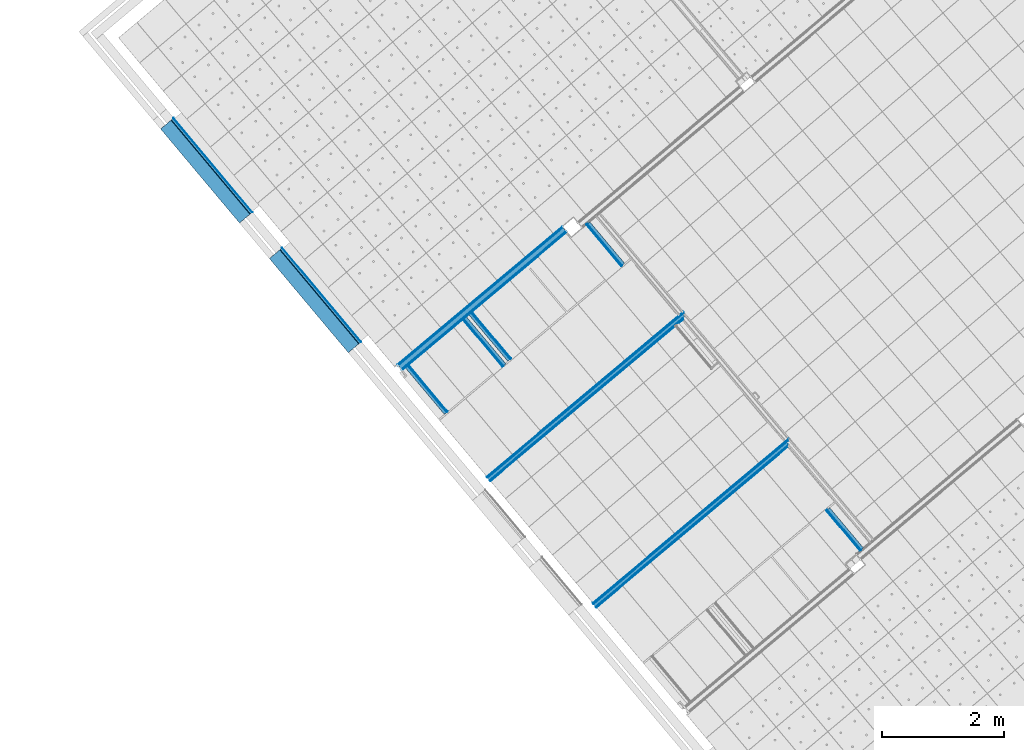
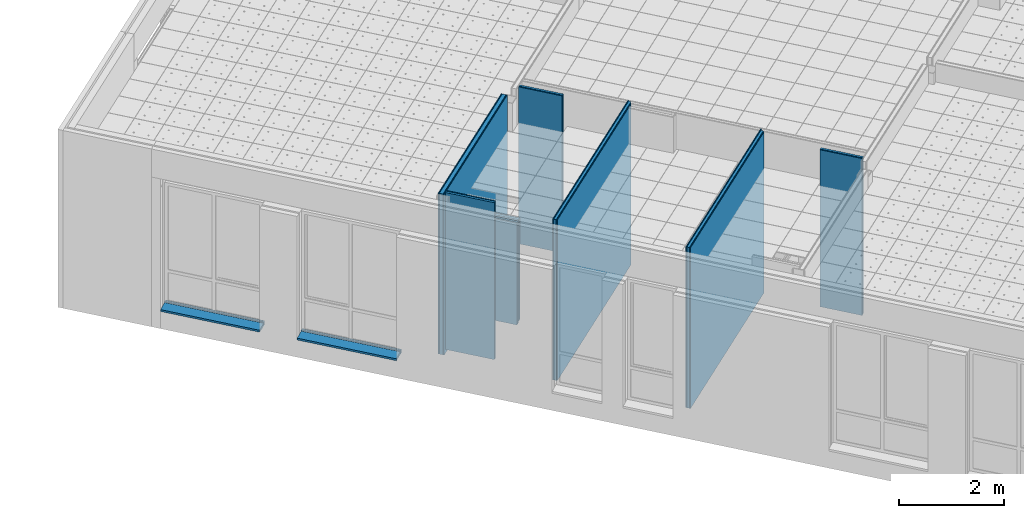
# One storey, part 57 of 338: 36 building element parts, 10 elements without a shape of their own.
"""IFC2X3 building model written with IfcOpenShell, lengths in millimetres."""

from ifc_helpers import new_model, entity, si_unit, converted_unit, derived_unit, money_unit, direction, frame, origin_with_axes, place, context, subcontext, project, spatial, faceted_brep, material, type_object, element, aggregate, save


model = new_model("IFC2X3")

# Units and contexts
model_context = context("Model", 3, precision=0.01, world=origin_with_axes(), true_north=direction((0.0, 1.0)))
plan_context = context("Plan", 3, precision=0.01, world=origin_with_axes(), true_north=direction((0.0, 1.0)))
body_context = subcontext(model_context, "Body", "Model", "MODEL_VIEW")
ifc_project = project(units=[si_unit("LENGTHUNIT", "METRE", prefix="MILLI"), si_unit("AREAUNIT", "SQUARE_METRE"), si_unit("VOLUMEUNIT", "CUBIC_METRE"), converted_unit("PLANEANGLEUNIT", "DEGREE", entity("IfcPlaneAngleMeasure", 0.0174532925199), si_unit("PLANEANGLEUNIT", "RADIAN"), dimensions=[0, 0, 0, 0, 0, 0, 0]), money_unit("EUR"), converted_unit("TIMEUNIT", "Year", entity("IfcTimeMeasure", 31556926.0), si_unit("TIMEUNIT", "SECOND"), dimensions=[0, 0, 1, 0, 0, 0, 0]), si_unit("MASSUNIT", "GRAM", prefix="KILO"), si_unit("THERMODYNAMICTEMPERATUREUNIT", "DEGREE_CELSIUS"), si_unit("LUMINOUSINTENSITYUNIT", "LUMEN"), si_unit("ENERGYUNIT", "JOULE", prefix="MEGA"), derived_unit("THERMALCONDUCTANCEUNIT", [(si_unit("POWERUNIT", "WATT"), 1), (si_unit("LENGTHUNIT", "METRE"), -1), (si_unit("THERMODYNAMICTEMPERATUREUNIT", "KELVIN"), -1)]), derived_unit("SPECIFICHEATCAPACITYUNIT", [(si_unit("ENERGYUNIT", "JOULE"), 1), (si_unit("MASSUNIT", "GRAM", prefix="KILO"), -1), (si_unit("THERMODYNAMICTEMPERATUREUNIT", "KELVIN"), -1)]), derived_unit("MASSDENSITYUNIT", [(si_unit("MASSUNIT", "GRAM", prefix="KILO"), 1), (si_unit("VOLUMEUNIT", "CUBIC_METRE"), -1)])], contexts=[model_context, plan_context])

# Site, building, storey
site_placement = place(None, origin_with_axes())
site = spatial("IfcSite", under=ifc_project, at=site_placement, Name="Fortuinstraat Woensdrecht", CompositionType="ELEMENT")
building_placement = place(site_placement, origin_with_axes())
building = spatial("IfcBuilding", under=site, at=building_placement, Name="IKC Fortuna", CompositionType="ELEMENT")
storey_placement = place(building_placement, origin_with_axes())
storey = spatial("IfcBuildingStorey", under=building, at=storey_placement, Name="00 begane grond", CompositionType="ELEMENT", Elevation=0.0)

# Wall, building element parts
wall_type_1 = type_object("IfcWallType", Name="MS100 2.50.2A 100", PredefinedType="NOTDEFINED")
wall_1_placement = place(storey_placement, frame((8078.40234928, -9394.10644815, 1360.0), z_axis=(0.0, 0.0, 1.0), x_axis=(0.766044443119, 0.642787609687, 0.0)))
wall_1 = element("IfcWall", 1, at=wall_1_placement, inside=storey, type_object=wall_type_1, Name="22_Wand_Binnenwand")
ifc_material_1 = material(Name="Gipsplaat")
building_element_part_1_placement = place(wall_1_placement, origin_with_axes())
building_element_part_1 = element("IfcBuildingElementPart", 2, at=building_element_part_1_placement, material=ifc_material_1, Name="Gipsplaat", context=body_context, shape_type="Brep", body=[
    faceted_brep([(4187.47180896, 100.0, 3740.0), (0.0, 100.0, 3740.0), (0.0, 87.5, 3740.0), (4187.47180896, 87.5, 3740.0), (4187.47180896, 100.0, 0.0), (0.0, 100.0, 0.0), (0.0, 87.5, 0.0), (4187.47180896, 87.5, 0.0)], [[[0, 1, 2, 3]], [[4, 5, 1, 0]], [[2, 1, 5, 6]], [[3, 2, 6, 7]], [[3, 7, 4, 0]], [[7, 6, 5, 4]]]),
])
building_element_part_2_placement = place(wall_1_placement, origin_with_axes())
building_element_part_2 = element("IfcBuildingElementPart", 3, at=building_element_part_2_placement, material=ifc_material_1, Name="Gipsplaat", context=body_context, shape_type="Brep", body=[
    faceted_brep([(4174.97180896, 87.5, 3740.0), (0.0, 87.5, 3740.0), (0.0, 75.0, 3740.0), (4174.97180896, 75.0, 3740.0), (4174.97180896, 87.5, 0.0), (0.0, 87.5, 0.0), (0.0, 75.0, 0.0), (4174.97180896, 75.0, 0.0)], [[[0, 1, 2, 3]], [[4, 5, 1, 0]], [[2, 1, 5, 6]], [[3, 2, 6, 7]], [[3, 7, 4, 0]], [[7, 6, 5, 4]]]),
])
ifc_material_2 = material(Name="Isolatie - Steenwol LSW")
building_element_part_3_placement = place(wall_1_placement, origin_with_axes())
building_element_part_3 = element("IfcBuildingElementPart", 4, at=building_element_part_3_placement, material=ifc_material_2, Name="Isolatie - Steenwol LSW", context=body_context, shape_type="Brep", body=[
    faceted_brep([(4124.97180896, 75.0, 3740.0), (0.0, 75.0, 3740.0), (0.0, 25.0, 3740.0), (4124.97180896, 25.0, 3740.0), (4124.97180896, 75.0, 0.0), (0.0, 75.0, 0.0), (0.0, 25.0, 0.0), (4124.97180896, 25.0, 0.0)], [[[0, 1, 2, 3]], [[4, 5, 1, 0]], [[2, 1, 5, 6]], [[3, 2, 6, 7]], [[3, 7, 4, 0]], [[7, 6, 5, 4]]]),
])
building_element_part_4_placement = place(wall_1_placement, origin_with_axes())
building_element_part_4 = element("IfcBuildingElementPart", 5, at=building_element_part_4_placement, material=ifc_material_1, Name="Gipsplaat", context=body_context, shape_type="Brep", body=[
    faceted_brep([(4112.47180896, 25.0, 3740.0), (0.0, 25.0, 3740.0), (0.0, 12.5, 3740.0), (4112.47180896, 12.5, 3740.0), (4112.47180896, 25.0, 0.0), (0.0, 25.0, 0.0), (0.0, 12.5, 0.0), (4112.47180896, 12.5, 0.0)], [[[0, 1, 2, 3]], [[4, 5, 1, 0]], [[2, 1, 5, 6]], [[3, 2, 6, 7]], [[3, 7, 4, 0]], [[7, 6, 5, 4]]]),
])
building_element_part_5_placement = place(wall_1_placement, origin_with_axes())
building_element_part_5 = element("IfcBuildingElementPart", 6, at=building_element_part_5_placement, material=ifc_material_1, Name="Gipsplaat", context=body_context, shape_type="Brep", body=[
    faceted_brep([(4099.97180896, 12.5, 3740.0), (0.0, 12.5, 3740.0), (0.0, 0.0, 3740.0), (4099.97180896, 0.0, 3740.0), (4099.97180896, 12.5, 0.0), (0.0, 12.5, 0.0), (0.0, 0.0, 0.0), (4099.97180896, 0.0, 0.0)], [[[0, 1, 2, 3]], [[4, 5, 1, 0]], [[2, 1, 5, 6]], [[3, 2, 6, 7]], [[3, 7, 4, 0]], [[7, 6, 5, 4]]]),
])
aggregate(wall_1, [building_element_part_1, building_element_part_2, building_element_part_3, building_element_part_4, building_element_part_5])

wall_2_placement = place(storey_placement, frame((6342.93781816, -7325.86035836, 1360.0), z_axis=(0.0, 0.0, 1.0), x_axis=(0.766044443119, 0.642787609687, 0.0)))
wall_2 = element("IfcWall", 7, at=wall_2_placement, inside=storey, type_object=wall_type_1, Name="22_Wand_Binnenwand")
building_element_part_6_placement = place(wall_2_placement, origin_with_axes())
building_element_part_6 = element("IfcBuildingElementPart", 8, at=building_element_part_6_placement, material=ifc_material_1, Name="Gipsplaat", context=body_context, shape_type="Brep", body=[
    faceted_brep([(0.0, 87.5, 0.0), (4199.97180896, 87.5, 0.0), (4199.97180896, 87.5, 3740.0), (0.0, 87.5, 3740.0), (0.0, 100.0, 0.0), (4199.97180896, 100.0, 0.0), (4199.97180896, 100.0, 3740.0), (0.0, 100.0, 3740.0)], [[[0, 1, 2, 3]], [[4, 5, 1, 0]], [[5, 6, 2, 1]], [[3, 2, 6, 7]], [[4, 0, 3, 7]], [[7, 6, 5, 4]]]),
])
building_element_part_7_placement = place(wall_2_placement, origin_with_axes())
building_element_part_7 = element("IfcBuildingElementPart", 9, at=building_element_part_7_placement, material=ifc_material_1, Name="Gipsplaat", context=body_context, shape_type="Brep", body=[
    faceted_brep([(4187.47180896, 75.0, 0.0), (4187.47180896, 75.0, 3740.0), (0.0, 75.0, 3740.0), (0.0, 75.0, 0.0), (4187.47180896, 87.5, 3740.0), (4187.47180896, 87.5, 0.0), (0.0, 87.5, 3740.0), (0.0, 87.5, 0.0)], [[[0, 1, 2, 3]], [[4, 1, 0, 5]], [[1, 4, 6, 2]], [[7, 3, 2, 6]], [[5, 0, 3, 7]], [[4, 5, 7, 6]]]),
])
building_element_part_8_placement = place(wall_2_placement, origin_with_axes())
building_element_part_8 = element("IfcBuildingElementPart", 10, at=building_element_part_8_placement, material=ifc_material_2, Name="Isolatie - Steenwol LSW", context=body_context, shape_type="Brep", body=[
    faceted_brep([(4174.97180896, 25.0, 0.0), (4174.97180896, 25.0, 3740.0), (0.0, 25.0, 3740.0), (0.0, 25.0, 0.0), (4174.97180896, 75.0, 3740.0), (4174.97180896, 75.0, 0.0), (0.0, 75.0, 3740.0), (0.0, 75.0, 0.0)], [[[0, 1, 2, 3]], [[4, 1, 0, 5]], [[1, 4, 6, 2]], [[7, 3, 2, 6]], [[5, 0, 3, 7]], [[4, 5, 7, 6]]]),
])
building_element_part_9_placement = place(wall_2_placement, origin_with_axes())
building_element_part_9 = element("IfcBuildingElementPart", 11, at=building_element_part_9_placement, material=ifc_material_1, Name="Gipsplaat", context=body_context, shape_type="Brep", body=[
    faceted_brep([(4124.97180896, 12.5, 0.0), (4124.97180896, 12.5, 3740.0), (0.0, 12.5, 3740.0), (0.0, 12.5, 0.0), (4124.97180896, 25.0, 3740.0), (4124.97180896, 25.0, 0.0), (0.0, 25.0, 3740.0), (0.0, 25.0, 0.0)], [[[0, 1, 2, 3]], [[4, 1, 0, 5]], [[1, 4, 6, 2]], [[7, 3, 2, 6]], [[5, 0, 3, 7]], [[4, 5, 7, 6]]]),
])
building_element_part_10_placement = place(wall_2_placement, origin_with_axes())
building_element_part_10 = element("IfcBuildingElementPart", 12, at=building_element_part_10_placement, material=ifc_material_1, Name="Gipsplaat", context=body_context, shape_type="Brep", body=[
    faceted_brep([(4112.47180896, 0.0, 1000.0), (4112.47180896, 0.0, 1842.0), (4112.47180896, 0.0, 3740.0), (0.0, 0.0, 3740.0), (0.0, 0.0, 0.0), (4112.47180896, 0.0, 0.0), (4112.47180896, 12.5, 3740.0), (4112.47180896, 12.5, 0.0), (0.0, 12.5, 3740.0), (0.0, 12.5, 0.0)], [[[0, 1, 2, 3, 4, 5]], [[6, 2, 1, 0, 5, 7]], [[2, 6, 8, 3]], [[9, 4, 3, 8]], [[7, 5, 4, 9]], [[6, 7, 9, 8]]]),
])
aggregate(wall_2, [building_element_part_6, building_element_part_7, building_element_part_8, building_element_part_9, building_element_part_10])

wall_type_2 = type_object("IfcWallType", Name="MS125 2.75.2A 125", PredefinedType="NOTDEFINED")
wall_3_placement = place(storey_placement, frame((4900.27852152, -5511.22449406, 1360.0), z_axis=(0.0, 0.0, 1.0), x_axis=(0.766044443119, 0.642787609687, 0.0)))
wall_3 = element("IfcWall", 13, at=wall_3_placement, inside=storey, type_object=wall_type_2, Name="22_Wand_Binnenwand")
building_element_part_11_placement = place(wall_3_placement, origin_with_axes())
building_element_part_11 = element("IfcBuildingElementPart", 14, at=building_element_part_11_placement, material=ifc_material_1, Name="Gipsplaat", context=body_context, shape_type="Brep", body=[
    faceted_brep([(3515.21240283, 112.5, 3740.0), (3515.21240283, 125.0, 3740.0), (0.0, 125.0, 3740.0), (0.0, 112.5, 3740.0), (3515.21240283, 112.5, 0.0), (3515.21240283, 125.0, 0.0), (0.0, 125.0, 0.0), (0.0, 112.5, 0.0)], [[[0, 1, 2, 3]], [[0, 4, 5, 1]], [[1, 5, 6, 2]], [[3, 2, 6, 7]], [[4, 0, 3, 7]], [[5, 4, 7, 6]]]),
])
building_element_part_12_placement = place(wall_3_placement, origin_with_axes())
building_element_part_12 = element("IfcBuildingElementPart", 15, at=building_element_part_12_placement, material=ifc_material_1, Name="Gipsplaat", context=body_context, shape_type="Brep", body=[
    faceted_brep([(3515.21240283, 100.0, 3740.0), (3515.21240283, 112.5, 3740.0), (0.0, 112.5, 3740.0), (0.0, 100.0, 3740.0), (3515.21240283, 100.0, 0.0), (3515.21240283, 112.5, 0.0), (0.0, 112.5, 0.0), (0.0, 100.0, 0.0)], [[[0, 1, 2, 3]], [[0, 4, 5, 1]], [[1, 5, 6, 2]], [[3, 2, 6, 7]], [[4, 0, 3, 7]], [[5, 4, 7, 6]]]),
])
building_element_part_13_placement = place(wall_3_placement, origin_with_axes())
building_element_part_13 = element("IfcBuildingElementPart", 16, at=building_element_part_13_placement, material=ifc_material_2, Name="Isolatie - Steenwol LSW", context=body_context, shape_type="Brep", body=[
    faceted_brep([(3515.21240283, 25.0, 3740.0), (3515.21240283, 100.0, 3740.0), (0.0, 100.0, 3740.0), (0.0, 25.0, 3740.0), (3515.21240283, 25.0, 0.0), (3515.21240283, 100.0, 0.0), (0.0, 100.0, 0.0), (0.0, 25.0, 0.0)], [[[0, 1, 2, 3]], [[0, 4, 5, 1]], [[1, 5, 6, 2]], [[3, 2, 6, 7]], [[4, 0, 3, 7]], [[5, 4, 7, 6]]]),
])
building_element_part_14_placement = place(wall_3_placement, origin_with_axes())
building_element_part_14 = element("IfcBuildingElementPart", 17, at=building_element_part_14_placement, material=ifc_material_1, Name="Gipsplaat", context=body_context, shape_type="Brep", body=[
    faceted_brep([(3515.21240283, 12.5, 3740.0), (3515.21240283, 25.0, 3740.0), (0.0, 25.0, 3740.0), (0.0, 12.5, 3740.0), (3515.21240283, 12.5, 0.0), (3515.21240283, 25.0, 0.0), (0.0, 25.0, 0.0), (0.0, 12.5, 0.0)], [[[0, 1, 2, 3]], [[0, 4, 5, 1]], [[1, 5, 6, 2]], [[3, 2, 6, 7]], [[4, 0, 3, 7]], [[5, 4, 7, 6]]]),
])
building_element_part_15_placement = place(wall_3_placement, origin_with_axes())
building_element_part_15 = element("IfcBuildingElementPart", 18, at=building_element_part_15_placement, material=ifc_material_1, Name="Gipsplaat", context=body_context, shape_type="Brep", body=[
    faceted_brep([(3515.21240283, 0.0, 3740.0), (3515.21240283, 12.5, 3740.0), (0.0, 12.5, 3740.0), (0.0, 0.0, 3740.0), (3515.21240283, 0.0, 0.0), (3515.21240283, 12.5, 0.0), (0.0, 12.5, 0.0), (0.0, 0.0, 0.0)], [[[0, 1, 2, 3]], [[0, 4, 5, 1]], [[1, 5, 6, 2]], [[3, 2, 6, 7]], [[4, 0, 3, 7]], [[5, 4, 7, 6]]]),
])
aggregate(wall_3, [building_element_part_11, building_element_part_12, building_element_part_13, building_element_part_14, building_element_part_15])

# Covering, building element parts
covering_type = type_object("IfcCoveringType", Name="41 dorpel 1450 280 x 88", PredefinedType="NOTDEFINED")
covering_1_placement = place(storey_placement, frame((4122.2962778, -5130.56273338, 1447.5), z_axis=(0.0, 0.0, 1.0), x_axis=(-0.642787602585, 0.766044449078, 0.0)))
covering_1 = element("IfcCovering", 19, at=covering_1_placement, inside=storey, type_object=covering_type, Name="41_Afwerking_Dorpel", PredefinedType="NOTDEFINED")
ifc_material_3 = material(Name="Steen - Kunststeen")
building_element_part_16_placement = place(covering_1_placement, origin_with_axes())
building_element_part_16 = element("IfcBuildingElementPart", 20, at=building_element_part_16_placement, material=ifc_material_3, Name="Steen - Kunststeen", context=body_context, shape_type="Brep", body=[
    faceted_brep([(2010.0, 140.0, -39.7722078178), (2010.0, 140.0, -85.0), (0.0, 140.0, -85.0), (0.0, 140.0, -39.7722078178), (2010.0, -82.0, -19.5865456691), (2010.0, -82.0, 2.5), (2010.0, -92.0, 2.5), (2010.0, -92.0, -85.0), (0.0, -92.0, -85.0), (0.0, -92.0, 2.5), (0.0, -82.0, 2.5), (0.0, -82.0, -19.5865456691)], [[[0, 1, 2, 3]], [[0, 4, 5, 6, 7, 1]], [[1, 7, 8, 2]], [[3, 2, 8, 9, 10, 11]], [[4, 0, 3, 11]], [[5, 4, 11, 10]], [[6, 5, 10, 9]], [[7, 6, 9, 8]]]),
])
ifc_material_4 = material(Name="Hout AFW")
building_element_part_17_placement = place(covering_1_placement, origin_with_axes())
building_element_part_17 = element("IfcBuildingElementPart", 21, at=building_element_part_17_placement, material=ifc_material_4, Name="Hout AFW", context=body_context, shape_type="Brep", body=[
    faceted_brep([(2010.0, -92.0000008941, 2.49999910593), (2010.0, -92.0000008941, -85.0), (0.0, -92.0000008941, -85.0), (0.0, -92.0000008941, 2.49999910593), (2010.0, -130.0, 2.49999910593), (2010.0, -130.0, -85.0), (0.0, -130.0, -85.0), (0.0, -130.0, 2.49999910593)], [[[0, 1, 2, 3]], [[0, 4, 5, 1]], [[1, 5, 6, 2]], [[3, 2, 6, 7]], [[4, 0, 3, 7]], [[5, 4, 7, 6]]]),
])
ifc_material_5 = material(Name="Isolatie - PUR gespoten")
building_element_part_18_placement = place(covering_1_placement, origin_with_axes())
building_element_part_18 = element("IfcBuildingElementPart", 22, at=building_element_part_18_placement, material=ifc_material_5, Name="Isolatie - PUR gespoten", context=body_context, shape_type="Brep", body=[
    faceted_brep([(2010.0, -129.999999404, -85.0), (2010.0, -140.000000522, -85.0), (0.0, -140.000000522, -85.0), (0.0, -129.999999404, -85.0), (2010.0, -129.999999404, 2.49999869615), (2010.0, -140.000000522, 2.5), (0.0, -140.000000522, 2.5), (0.0, -129.999999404, 2.49999869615)], [[[0, 1, 2, 3]], [[0, 4, 5, 1]], [[1, 5, 6, 2]], [[3, 2, 6, 7]], [[4, 0, 3, 7]], [[5, 4, 7, 6]]]),
])
aggregate(covering_1, [building_element_part_16, building_element_part_17, building_element_part_18])

covering_2_placement = place(storey_placement, frame((2341.77458655, -3008.61960944, 1447.5), z_axis=(0.0, 0.0, 1.0), x_axis=(-0.642787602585, 0.766044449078, 0.0)))
covering_2 = element("IfcCovering", 23, at=covering_2_placement, inside=storey, type_object=covering_type, Name="41_Afwerking_Dorpel", PredefinedType="NOTDEFINED")
building_element_part_19_placement = place(covering_2_placement, origin_with_axes())
building_element_part_19 = element("IfcBuildingElementPart", 24, at=building_element_part_19_placement, material=ifc_material_3, Name="Steen - Kunststeen", context=body_context, shape_type="Brep", body=[
    faceted_brep([(2010.0, 140.0, -39.7722078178), (2010.0, 140.0, -85.0), (0.0, 140.0, -85.0), (0.0, 140.0, -39.7722078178), (2010.0, -82.0, -19.5865456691), (2010.0, -82.0, 2.5), (2010.0, -92.0, 2.5), (2010.0, -92.0, -85.0), (0.0, -92.0, -85.0), (0.0, -92.0, 2.5), (0.0, -82.0, 2.5), (0.0, -82.0, -19.5865456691)], [[[0, 1, 2, 3]], [[0, 4, 5, 6, 7, 1]], [[1, 7, 8, 2]], [[3, 2, 8, 9, 10, 11]], [[4, 0, 3, 11]], [[5, 4, 11, 10]], [[6, 5, 10, 9]], [[7, 6, 9, 8]]]),
])
building_element_part_20_placement = place(covering_2_placement, origin_with_axes())
building_element_part_20 = element("IfcBuildingElementPart", 25, at=building_element_part_20_placement, material=ifc_material_4, Name="Hout AFW", context=body_context, shape_type="Brep", body=[
    faceted_brep([(2010.0, -92.0000008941, 2.49999910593), (2010.0, -92.0000008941, -85.0), (0.0, -92.0000008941, -85.0), (0.0, -92.0000008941, 2.49999910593), (2010.0, -130.0, 2.49999910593), (2010.0, -130.0, -85.0), (0.0, -130.0, -85.0), (0.0, -130.0, 2.49999910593)], [[[0, 1, 2, 3]], [[0, 4, 5, 1]], [[1, 5, 6, 2]], [[3, 2, 6, 7]], [[4, 0, 3, 7]], [[5, 4, 7, 6]]]),
])
building_element_part_21_placement = place(covering_2_placement, origin_with_axes())
building_element_part_21 = element("IfcBuildingElementPart", 26, at=building_element_part_21_placement, material=ifc_material_5, Name="Isolatie - PUR gespoten", context=body_context, shape_type="Brep", body=[
    faceted_brep([(2010.0, -129.999999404, -85.0), (2010.0, -140.000000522, -85.0), (0.0, -140.000000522, -85.0), (0.0, -129.999999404, -85.0), (2010.0, -129.999999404, 2.49999869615), (2010.0, -140.000000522, 2.5), (0.0, -140.000000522, 2.5), (0.0, -129.999999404, 2.49999869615)], [[[0, 1, 2, 3]], [[0, 4, 5, 1]], [[1, 5, 6, 2]], [[3, 2, 6, 7]], [[4, 0, 3, 7]], [[5, 4, 7, 6]]]),
])
aggregate(covering_2, [building_element_part_19, building_element_part_20, building_element_part_21])

# Wall, building element parts
wall_type_3 = type_object("IfcWallType", Name="MS75 50.2A 75", PredefinedType="NOTDEFINED")
wall_4_placement = place(storey_placement, frame((5644.92693172, -6182.8586114, 1450.0), z_axis=(0.0, 0.0, 1.0), x_axis=(-0.642787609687, 0.766044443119, 0.0)))
wall_4 = element("IfcWall", 27, at=wall_4_placement, inside=storey, type_object=wall_type_3, Name="22_Wand_Binnenwand")
building_element_part_22_placement = place(wall_4_placement, origin_with_axes())
building_element_part_22 = element("IfcBuildingElementPart", 28, at=building_element_part_22_placement, material=ifc_material_2, Name="Isolatie - Steenwol LSW", context=body_context, shape_type="Brep", body=[
    faceted_brep([(993.152355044, 25.0, 0.0), (0.0, 25.0, 0.0), (0.0, 75.0, 0.0), (993.152355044, 75.0, 0.0), (993.152355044, 25.0, 3650.0), (0.0, 25.0, 3650.0), (0.0, 75.0, 3650.0), (993.152355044, 75.0, 3650.0)], [[[0, 1, 2, 3]], [[4, 5, 1, 0]], [[2, 1, 5, 6]], [[3, 2, 6, 7]], [[3, 7, 4, 0]], [[7, 6, 5, 4]]]),
])
building_element_part_23_placement = place(wall_4_placement, origin_with_axes())
building_element_part_23 = element("IfcBuildingElementPart", 29, at=building_element_part_23_placement, material=ifc_material_1, Name="Gipsplaat", context=body_context, shape_type="Brep", body=[
    faceted_brep([(993.152355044, 12.5, 0.0), (0.0, 12.5, 0.0), (0.0, 25.0, 0.0), (993.152355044, 25.0, 0.0), (993.152355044, 12.5, 3650.0), (0.0, 12.5, 3650.0), (0.0, 25.0, 3650.0), (993.152355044, 25.0, 3650.0)], [[[0, 1, 2, 3]], [[4, 5, 1, 0]], [[2, 1, 5, 6]], [[3, 2, 6, 7]], [[3, 7, 4, 0]], [[7, 6, 5, 4]]]),
])
building_element_part_24_placement = place(wall_4_placement, origin_with_axes())
building_element_part_24 = element("IfcBuildingElementPart", 30, at=building_element_part_24_placement, material=ifc_material_1, Name="Gipsplaat", context=body_context, shape_type="Brep", body=[
    faceted_brep([(993.152355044, 0.0, 0.0), (0.0, 0.0, 0.0), (0.0, 12.5, 0.0), (993.152355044, 12.5, 0.0), (993.152355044, 0.0, 3650.0), (0.0, 0.0, 3650.0), (0.0, 12.5, 3650.0), (993.152355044, 12.5, 3650.0)], [[[0, 1, 2, 3]], [[4, 5, 1, 0]], [[2, 1, 5, 6]], [[3, 2, 6, 7]], [[3, 7, 4, 0]], [[7, 6, 5, 4]]]),
])
aggregate(wall_4, [building_element_part_22, building_element_part_23, building_element_part_24])

wall_5_placement = place(storey_placement, frame((6682.27158081, -5312.42309452, 1450.0), z_axis=(0.0, 0.0, 1.0), x_axis=(-0.642787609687, 0.766044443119, 0.0)))
wall_5 = element("IfcWall", 31, at=wall_5_placement, inside=storey, type_object=wall_type_3, Name="22_Wand_Binnenwand")
building_element_part_25_placement = place(wall_5_placement, origin_with_axes())
building_element_part_25 = element("IfcBuildingElementPart", 32, at=building_element_part_25_placement, material=ifc_material_2, Name="Isolatie - Steenwol LSW", context=body_context, shape_type="Brep", body=[
    faceted_brep([(993.152351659, 25.0, 0.0), (0.0, 25.0, 0.0), (0.0, 75.0, 0.0), (993.152351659, 75.0, 0.0), (993.152351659, 25.0, 2367.0), (0.0, 25.0, 2367.0), (0.0, 75.0, 2367.0), (993.152351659, 75.0, 2367.0)], [[[0, 1, 2, 3]], [[4, 5, 1, 0]], [[2, 1, 5, 6]], [[3, 2, 6, 7]], [[3, 7, 4, 0]], [[7, 6, 5, 4]]]),
])
building_element_part_26_placement = place(wall_5_placement, origin_with_axes())
building_element_part_26 = element("IfcBuildingElementPart", 33, at=building_element_part_26_placement, material=ifc_material_1, Name="Gipsplaat", context=body_context, shape_type="Brep", body=[
    faceted_brep([(993.152351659, 12.5, 0.0), (0.0, 12.5, 0.0), (0.0, 25.0, 0.0), (993.152351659, 25.0, 0.0), (993.152351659, 12.5, 2367.0), (0.0, 12.5, 2367.0), (0.0, 25.0, 2367.0), (993.152351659, 25.0, 2367.0)], [[[0, 1, 2, 3]], [[4, 5, 1, 0]], [[2, 1, 5, 6]], [[3, 2, 6, 7]], [[3, 7, 4, 0]], [[7, 6, 5, 4]]]),
])
building_element_part_27_placement = place(wall_5_placement, origin_with_axes())
building_element_part_27 = element("IfcBuildingElementPart", 34, at=building_element_part_27_placement, material=ifc_material_1, Name="Gipsplaat", context=body_context, shape_type="Brep", body=[
    faceted_brep([(993.152351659, 0.0, 0.0), (0.0, 0.0, 0.0), (0.0, 12.5, 0.0), (993.152351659, 12.5, 0.0), (993.152351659, 0.0, 2367.0), (0.0, 0.0, 2367.0), (0.0, 12.5, 2367.0), (993.152351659, 12.5, 2367.0)], [[[0, 1, 2, 3]], [[4, 5, 1, 0]], [[2, 1, 5, 6]], [[3, 2, 6, 7]], [[3, 7, 4, 0]], [[7, 6, 5, 4]]]),
])
aggregate(wall_5, [building_element_part_25, building_element_part_26, building_element_part_27])

wall_6_placement = place(storey_placement, frame((8479.26977349, -3804.56257382, 1450.0), z_axis=(0.0, 0.0, 1.0), x_axis=(-0.642787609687, 0.766044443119, 0.0)))
wall_6 = element("IfcWall", 35, at=wall_6_placement, inside=storey, type_object=wall_type_3, Name="22_Wand_Binnenwand")
building_element_part_28_placement = place(wall_6_placement, origin_with_axes())
building_element_part_28 = element("IfcBuildingElementPart", 36, at=building_element_part_28_placement, material=ifc_material_1, Name="Gipsplaat", context=body_context, shape_type="Brep", body=[
    faceted_brep([(883.152351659, 0.0, 3650.0), (0.0, 0.0, 3650.0), (0.0, -12.5, 3650.0), (883.152351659, -12.5, 3650.0), (883.152351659, 0.0, 0.0), (0.0, 0.0, 0.0), (0.0, -12.5, 0.0), (883.152351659, -12.5, 0.0)], [[[0, 1, 2, 3]], [[4, 5, 1, 0]], [[2, 1, 5, 6]], [[3, 2, 6, 7]], [[3, 7, 4, 0]], [[7, 6, 5, 4]]]),
])
building_element_part_29_placement = place(wall_6_placement, origin_with_axes())
building_element_part_29 = element("IfcBuildingElementPart", 37, at=building_element_part_29_placement, material=ifc_material_1, Name="Gipsplaat", context=body_context, shape_type="Brep", body=[
    faceted_brep([(883.152351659, -12.5, 3650.0), (0.0, -12.5, 3650.0), (0.0, -25.0, 3650.0), (883.152351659, -25.0, 3650.0), (883.152351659, -12.5, 0.0), (0.0, -12.5, 0.0), (0.0, -25.0, 0.0), (883.152351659, -25.0, 0.0)], [[[0, 1, 2, 3]], [[4, 5, 1, 0]], [[2, 1, 5, 6]], [[3, 2, 6, 7]], [[3, 7, 4, 0]], [[7, 6, 5, 4]]]),
])
building_element_part_30_placement = place(wall_6_placement, origin_with_axes())
building_element_part_30 = element("IfcBuildingElementPart", 38, at=building_element_part_30_placement, material=ifc_material_2, Name="Isolatie - Steenwol LSW", context=body_context, shape_type="Brep", body=[
    faceted_brep([(883.152351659, -25.0, 3650.0), (0.0, -25.0, 3650.0), (0.0, -75.0, 3650.0), (883.152351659, -75.0, 3650.0), (883.152351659, -25.0, 0.0), (0.0, -25.0, 0.0), (0.0, -75.0, 0.0), (883.152351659, -75.0, 0.0)], [[[0, 1, 2, 3]], [[4, 5, 1, 0]], [[2, 1, 5, 6]], [[3, 2, 6, 7]], [[3, 7, 4, 0]], [[7, 6, 5, 4]]]),
])
aggregate(wall_6, [building_element_part_28, building_element_part_29, building_element_part_30])

wall_7_placement = place(storey_placement, frame((12388.4896024, -8463.38934914, 1450.0), z_axis=(0.0, 0.0, 1.0), x_axis=(-0.642787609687, 0.766044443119, 0.0)))
wall_7 = element("IfcWall", 39, at=wall_7_placement, inside=storey, type_object=wall_type_3, Name="22_Wand_Binnenwand")
building_element_part_31_placement = place(wall_7_placement, origin_with_axes())
building_element_part_31 = element("IfcBuildingElementPart", 40, at=building_element_part_31_placement, material=ifc_material_1, Name="Gipsplaat", context=body_context, shape_type="Brep", body=[
    faceted_brep([(858.155487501, -12.5, 3650.0), (858.155487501, 0.0, 3650.0), (0.0, 0.0, 3650.0), (0.0, -12.5, 3650.0), (858.155487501, -12.5, 0.0), (858.155487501, 0.0, 0.0), (0.0, 0.0, 0.0), (0.0, -12.5, 0.0)], [[[0, 1, 2, 3]], [[0, 4, 5, 1]], [[1, 5, 6, 2]], [[3, 2, 6, 7]], [[4, 0, 3, 7]], [[5, 4, 7, 6]]]),
])
building_element_part_32_placement = place(wall_7_placement, origin_with_axes())
building_element_part_32 = element("IfcBuildingElementPart", 41, at=building_element_part_32_placement, material=ifc_material_1, Name="Gipsplaat", context=body_context, shape_type="Brep", body=[
    faceted_brep([(858.155487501, -25.0, 3650.0), (858.155487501, -12.5, 3650.0), (0.0, -12.5, 3650.0), (0.0, -25.0, 3650.0), (858.155487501, -25.0, 0.0), (858.155487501, -12.5, 0.0), (0.0, -12.5, 0.0), (0.0, -25.0, 0.0)], [[[0, 1, 2, 3]], [[0, 4, 5, 1]], [[1, 5, 6, 2]], [[3, 2, 6, 7]], [[4, 0, 3, 7]], [[5, 4, 7, 6]]]),
])
building_element_part_33_placement = place(wall_7_placement, origin_with_axes())
building_element_part_33 = element("IfcBuildingElementPart", 42, at=building_element_part_33_placement, material=ifc_material_2, Name="Isolatie - Steenwol LSW", context=body_context, shape_type="Brep", body=[
    faceted_brep([(858.155487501, -75.0, 3650.0), (858.155487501, -25.0, 3650.0), (0.0, -25.0, 3650.0), (0.0, -75.0, 3650.0), (858.155487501, -75.0, 0.0), (858.155487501, -25.0, 0.0), (0.0, -25.0, 0.0), (0.0, -75.0, 0.0)], [[[0, 1, 2, 3]], [[0, 4, 5, 1]], [[1, 5, 6, 2]], [[3, 2, 6, 7]], [[4, 0, 3, 7]], [[5, 4, 7, 6]]]),
])
aggregate(wall_7, [building_element_part_31, building_element_part_32, building_element_part_33])

wall_8_placement = place(storey_placement, frame((6537.35910137, -5450.8678919, 1450.0), z_axis=(0.0, 0.0, 1.0), x_axis=(-0.642787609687, 0.766044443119, 0.0)))
wall_8 = element("IfcWall", 43, at=wall_8_placement, inside=storey, type_object=wall_type_3, Name="22_Wand_Binnenwand")
building_element_part_34_placement = place(wall_8_placement, origin_with_axes())
building_element_part_34 = element("IfcBuildingElementPart", 44, at=building_element_part_34_placement, material=ifc_material_1, Name="Gipsplaat", context=body_context, shape_type="Brep", body=[
    faceted_brep([(1006.05927309, 0.0, 2367.0), (0.0, 0.0, 2367.0), (0.0, -12.5, 2367.0), (1006.05927309, -12.5, 2367.0), (1006.05927309, 0.0, 0.0), (0.0, 0.0, 0.0), (0.0, -12.5, 0.0), (1006.05927309, -12.5, 0.0)], [[[0, 1, 2, 3]], [[4, 5, 1, 0]], [[2, 1, 5, 6]], [[3, 2, 6, 7]], [[3, 7, 4, 0]], [[7, 6, 5, 4]]]),
])
building_element_part_35_placement = place(wall_8_placement, origin_with_axes())
building_element_part_35 = element("IfcBuildingElementPart", 45, at=building_element_part_35_placement, material=ifc_material_1, Name="Gipsplaat", context=body_context, shape_type="Brep", body=[
    faceted_brep([(1006.05927309, -12.5, 2367.0), (0.0, -12.5, 2367.0), (0.0, -25.0, 2367.0), (1006.05927309, -25.0, 2367.0), (1006.05927309, -12.5, 0.0), (0.0, -12.5, 0.0), (0.0, -25.0, 0.0), (1006.05927309, -25.0, 0.0)], [[[0, 1, 2, 3]], [[4, 5, 1, 0]], [[2, 1, 5, 6]], [[3, 2, 6, 7]], [[3, 7, 4, 0]], [[7, 6, 5, 4]]]),
])
building_element_part_36_placement = place(wall_8_placement, origin_with_axes())
building_element_part_36 = element("IfcBuildingElementPart", 46, at=building_element_part_36_placement, material=ifc_material_2, Name="Isolatie - Steenwol LSW", context=body_context, shape_type="Brep", body=[
    faceted_brep([(1006.05927309, -25.0, 2367.0), (0.0, -25.0, 2367.0), (0.0, -75.0, 2367.0), (1006.05927309, -75.0, 2367.0), (1006.05927309, -25.0, 0.0), (0.0, -25.0, 0.0), (0.0, -75.0, 0.0), (1006.05927309, -75.0, 0.0)], [[[0, 1, 2, 3]], [[4, 5, 1, 0]], [[2, 1, 5, 6]], [[3, 2, 6, 7]], [[3, 7, 4, 0]], [[7, 6, 5, 4]]]),
])
aggregate(wall_8, [building_element_part_34, building_element_part_35, building_element_part_36])

save(model, "model.ifc")
